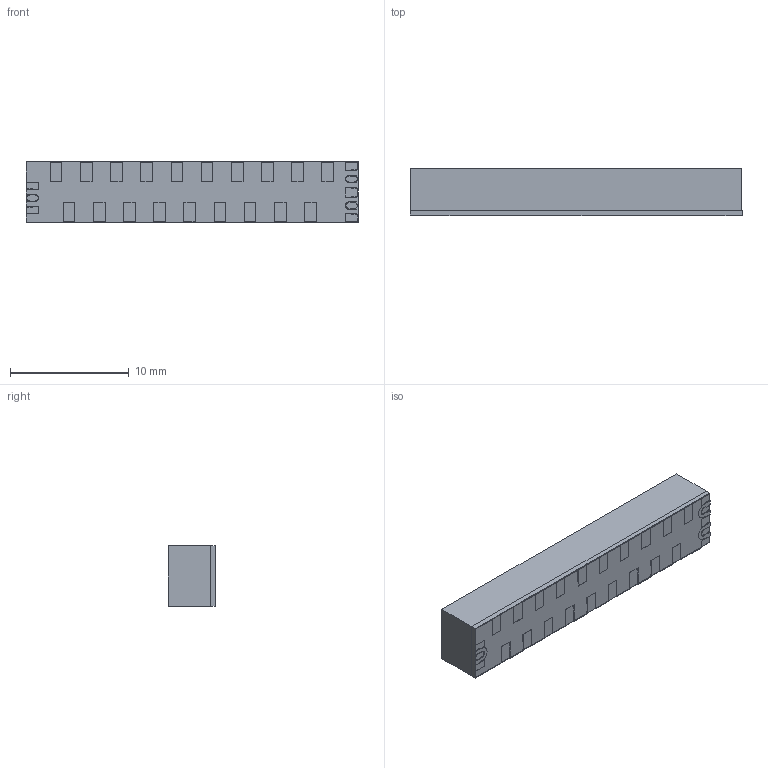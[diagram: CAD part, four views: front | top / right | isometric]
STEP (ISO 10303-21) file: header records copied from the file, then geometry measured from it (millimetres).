
FILE_DESCRIPTION (( 'STEP AP214' ), '1' );
FILE_NAME ('HL9491.STEP', '2023-01-26T21:18:17', ( '' ), ( '' ), 'SwSTEP 2.0', 'SolidWorks 2023', '' );
FILE_SCHEMA (( 'AUTOMOTIVE_DESIGN' ));
Length unit declared in the file: millimetre
Products named in the file (5): SolderMask; BottomCopper; Lid; Substrate; HL9491
Assembly tree (4 placements, depth 2):
  HL9491
    BottomCopper
    Lid
    SolderMask
    Substrate
Bounding box: 27.94 x 4.02 x 5.08 mm (x, y, z)
Volume: 210.2 mm3; surface area: 1567.1 mm2
Topology: 7 solids, 7 shells, 632 faces, 1818 edges, 1212 vertices
Faces by surface type: plane 590, cylinder 42
Entity records: 22639 total; most frequent: CARTESIAN_POINT 3669, ORIENTED_EDGE 3636, DIRECTION 3180, EDGE_CURVE 1818, LINE 1734, VECTOR 1734, VERTEX_POINT 1212, AXIS2_PLACEMENT_3D 723
